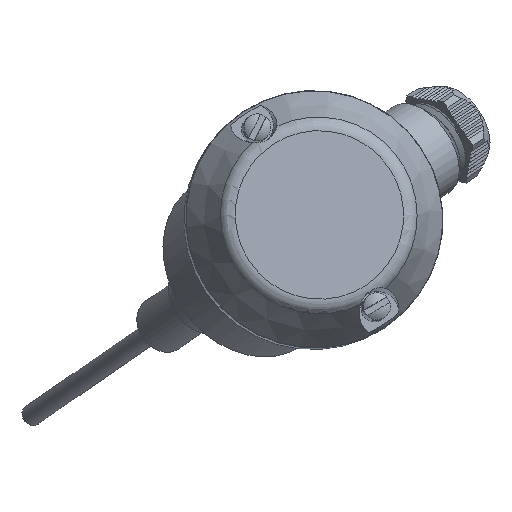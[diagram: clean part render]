
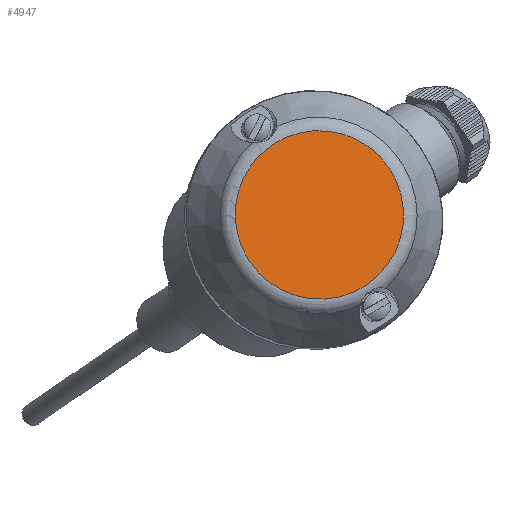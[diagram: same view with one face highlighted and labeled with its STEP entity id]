
A CAD part, top view. The second image highlights one B-rep face of the part: STEP entity #4947.
In plain terms, the highlighted planar face has unit normal (0.079, 0.066, 0.995) as drawn and (0, 0, 1) by its records, which use the part's own axes.
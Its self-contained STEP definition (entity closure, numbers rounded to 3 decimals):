
#4947=ADVANCED_FACE('',(#34607),#34609,.T.);
#34607=FACE_BOUND('',#34608,.T.);
#34608=EDGE_LOOP('',(#40508));
#34609=PLANE('',#34610);
#34610=AXIS2_PLACEMENT_3D('',#34611,#34612,#34613);
#34611=CARTESIAN_POINT('',(0.,0.,16.));
#34612=DIRECTION('',(0.,0.,1.));
#34613=DIRECTION('',(1.,0.,0.));
#40508=ORIENTED_EDGE('',*,*,#42348,.T.);
#42348=EDGE_CURVE('',#44344,#44344,#44345,.T.);
#44344=VERTEX_POINT('',#104134);
#44345=CIRCLE('',#104135,15.705);
#104134=CARTESIAN_POINT('',(15.705,0.,16.));
#104135=AXIS2_PLACEMENT_3D('',#104136,#104137,#104138);
#104136=CARTESIAN_POINT('',(0.,0.,16.));
#104137=DIRECTION('',(0.,0.,1.));
#104138=DIRECTION('',(1.,0.,0.));
